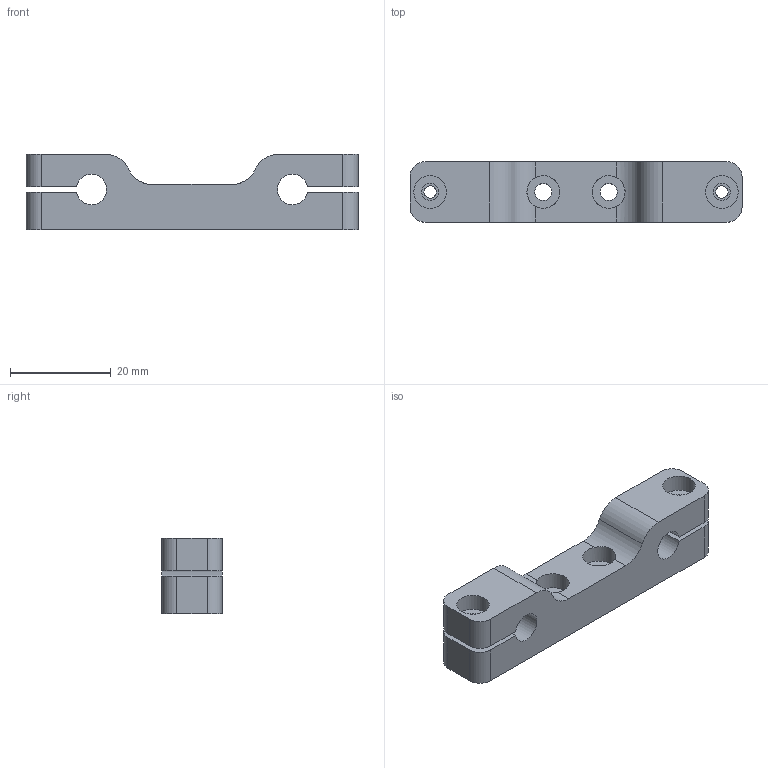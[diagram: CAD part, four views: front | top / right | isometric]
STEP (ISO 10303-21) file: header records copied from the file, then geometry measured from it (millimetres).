
FILE_DESCRIPTION(/* description */ ('Fine Screw Adapter Y-Axis'),/* implementation_level */ '2;1');
FILE_NAME(/* name */ 'Z:\Werkstatt Server\Projekte\Atlas\Entwicklung u. Konstruktion\Konstruktion\CAD Daten\ITkPixToolV2.0\Baremodule Jig\ITPTv2.01.00.07.stp',/* time_stamp */ '2021-08-06T14:54:03+02:00',/* author */ ('Tim Kanngießer'),/* organization */ (''),/* preprocessor_version */ 'ST-DEVELOPER v18.1',/* originating_system */ 'Autodesk Inventor 2022',/* authorisation */ '');
FILE_SCHEMA (('AUTOMOTIVE_DESIGN { 1 0 10303 214 3 1 1 }'));
Length unit declared in the file: millimetre
Products named in the file (1): ITPTv2.01.00.07
Bounding box: 66 x 12 x 15 mm (x, y, z)
Volume: 8256.8 mm3; surface area: 4920 mm2
Topology: 1 solids, 1 shells, 46 faces, 124 edges, 82 vertices
Faces by surface type: cylinder 26, plane 18, cone 2
Full cylindrical faces by diameter (mm): 2.459 x2, 3 x2, 3.4 x4, 6.5 x4
Entity records: 1548 total; most frequent: CARTESIAN_POINT 279, DIRECTION 264, ORIENTED_EDGE 244, EDGE_CURVE 122, AXIS2_PLACEMENT_3D 99, VERTEX_POINT 82, LINE 66, VECTOR 66
